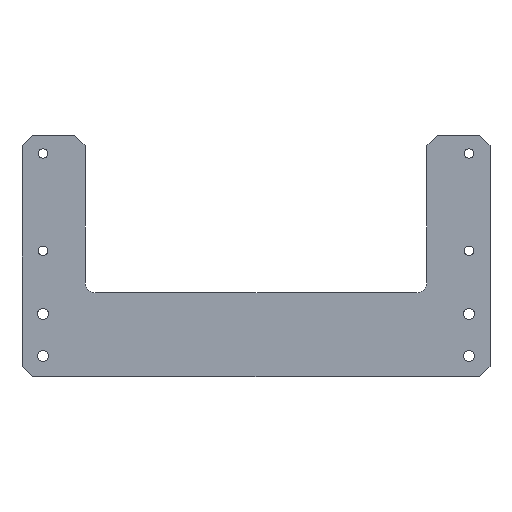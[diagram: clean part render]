
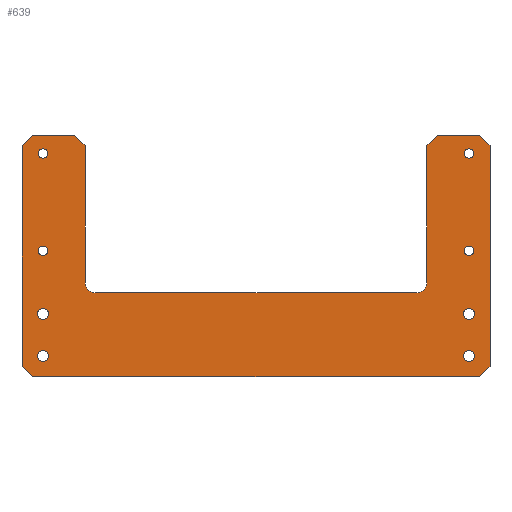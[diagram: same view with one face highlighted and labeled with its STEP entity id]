
A CAD part, top view. The second image highlights one B-rep face of the part: STEP entity #639.
In plain terms, the highlighted planar face has unit normal (0, 0, 1).
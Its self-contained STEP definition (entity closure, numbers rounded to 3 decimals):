
#57=FACE_BOUND('',#186,.T.);
#58=FACE_BOUND('',#187,.T.);
#59=FACE_BOUND('',#188,.T.);
#60=FACE_BOUND('',#189,.T.);
#61=FACE_BOUND('',#190,.T.);
#62=FACE_BOUND('',#191,.T.);
#63=FACE_BOUND('',#192,.T.);
#64=FACE_BOUND('',#193,.T.);
#133=PLANE('',#708);
#159=FACE_OUTER_BOUND('',#185,.T.);
#185=EDGE_LOOP('',(#557,#558,#559,#560,#561,#562,#563,#564,#565,#566,#567,
#568,#569,#570,#571,#572));
#186=EDGE_LOOP('',(#573));
#187=EDGE_LOOP('',(#574));
#188=EDGE_LOOP('',(#575));
#189=EDGE_LOOP('',(#576));
#190=EDGE_LOOP('',(#577));
#191=EDGE_LOOP('',(#578));
#192=EDGE_LOOP('',(#579));
#193=EDGE_LOOP('',(#580));
#205=LINE('',#922,#257);
#211=LINE('',#937,#263);
#222=LINE('',#991,#274);
#223=LINE('',#994,#275);
#226=LINE('',#1000,#278);
#229=LINE('',#1006,#281);
#232=LINE('',#1012,#284);
#235=LINE('',#1018,#287);
#238=LINE('',#1024,#290);
#241=LINE('',#1030,#293);
#244=LINE('',#1036,#296);
#247=LINE('',#1042,#299);
#250=LINE('',#1048,#302);
#253=LINE('',#1053,#305);
#257=VECTOR('',#740,10.);
#263=VECTOR('',#754,10.);
#274=VECTOR('',#815,10.);
#275=VECTOR('',#818,10.);
#278=VECTOR('',#823,10.);
#281=VECTOR('',#828,10.);
#284=VECTOR('',#833,10.);
#287=VECTOR('',#838,10.);
#290=VECTOR('',#843,10.);
#293=VECTOR('',#848,10.);
#296=VECTOR('',#853,10.);
#299=VECTOR('',#858,10.);
#302=VECTOR('',#863,10.);
#305=VECTOR('',#868,10.);
#307=CIRCLE('',#665,10.);
#309=CIRCLE('',#669,10.);
#312=CIRCLE('',#674,4.5);
#314=CIRCLE('',#677,4.5);
#316=CIRCLE('',#680,4.5);
#318=CIRCLE('',#683,4.5);
#320=CIRCLE('',#686,5.25);
#322=CIRCLE('',#689,5.25);
#324=CIRCLE('',#692,5.25);
#326=CIRCLE('',#695,5.25);
#341=VERTEX_POINT('',#912);
#342=VERTEX_POINT('',#913);
#345=VERTEX_POINT('',#921);
#347=VERTEX_POINT('',#927);
#348=VERTEX_POINT('',#928);
#352=VERTEX_POINT('',#941);
#354=VERTEX_POINT('',#947);
#356=VERTEX_POINT('',#953);
#358=VERTEX_POINT('',#959);
#360=VERTEX_POINT('',#965);
#362=VERTEX_POINT('',#971);
#364=VERTEX_POINT('',#977);
#366=VERTEX_POINT('',#983);
#368=VERTEX_POINT('',#989);
#369=VERTEX_POINT('',#993);
#371=VERTEX_POINT('',#999);
#373=VERTEX_POINT('',#1005);
#375=VERTEX_POINT('',#1011);
#377=VERTEX_POINT('',#1017);
#379=VERTEX_POINT('',#1023);
#381=VERTEX_POINT('',#1029);
#383=VERTEX_POINT('',#1035);
#385=VERTEX_POINT('',#1041);
#387=VERTEX_POINT('',#1047);
#389=EDGE_CURVE('',#341,#342,#307,.T.);
#393=EDGE_CURVE('',#345,#342,#205,.T.);
#396=EDGE_CURVE('',#347,#348,#309,.T.);
#401=EDGE_CURVE('',#341,#348,#211,.T.);
#404=EDGE_CURVE('',#352,#352,#312,.T.);
#407=EDGE_CURVE('',#354,#354,#314,.T.);
#410=EDGE_CURVE('',#356,#356,#316,.T.);
#413=EDGE_CURVE('',#358,#358,#318,.T.);
#416=EDGE_CURVE('',#360,#360,#320,.T.);
#419=EDGE_CURVE('',#362,#362,#322,.T.);
#422=EDGE_CURVE('',#364,#364,#324,.T.);
#425=EDGE_CURVE('',#366,#366,#326,.T.);
#428=EDGE_CURVE('',#347,#368,#222,.T.);
#429=EDGE_CURVE('',#368,#369,#223,.T.);
#432=EDGE_CURVE('',#369,#371,#226,.T.);
#435=EDGE_CURVE('',#371,#373,#229,.T.);
#438=EDGE_CURVE('',#373,#375,#232,.T.);
#441=EDGE_CURVE('',#375,#377,#235,.T.);
#444=EDGE_CURVE('',#377,#379,#238,.T.);
#447=EDGE_CURVE('',#379,#381,#241,.T.);
#450=EDGE_CURVE('',#381,#383,#244,.T.);
#453=EDGE_CURVE('',#383,#385,#247,.T.);
#456=EDGE_CURVE('',#385,#387,#250,.T.);
#459=EDGE_CURVE('',#387,#345,#253,.T.);
#557=ORIENTED_EDGE('',*,*,#401,.T.);
#558=ORIENTED_EDGE('',*,*,#396,.F.);
#559=ORIENTED_EDGE('',*,*,#428,.T.);
#560=ORIENTED_EDGE('',*,*,#429,.T.);
#561=ORIENTED_EDGE('',*,*,#432,.T.);
#562=ORIENTED_EDGE('',*,*,#435,.T.);
#563=ORIENTED_EDGE('',*,*,#438,.T.);
#564=ORIENTED_EDGE('',*,*,#441,.T.);
#565=ORIENTED_EDGE('',*,*,#444,.T.);
#566=ORIENTED_EDGE('',*,*,#447,.T.);
#567=ORIENTED_EDGE('',*,*,#450,.T.);
#568=ORIENTED_EDGE('',*,*,#453,.T.);
#569=ORIENTED_EDGE('',*,*,#456,.T.);
#570=ORIENTED_EDGE('',*,*,#459,.T.);
#571=ORIENTED_EDGE('',*,*,#393,.T.);
#572=ORIENTED_EDGE('',*,*,#389,.F.);
#573=ORIENTED_EDGE('',*,*,#425,.T.);
#574=ORIENTED_EDGE('',*,*,#422,.T.);
#575=ORIENTED_EDGE('',*,*,#419,.T.);
#576=ORIENTED_EDGE('',*,*,#416,.T.);
#577=ORIENTED_EDGE('',*,*,#413,.T.);
#578=ORIENTED_EDGE('',*,*,#410,.T.);
#579=ORIENTED_EDGE('',*,*,#407,.T.);
#580=ORIENTED_EDGE('',*,*,#404,.T.);
#639=ADVANCED_FACE('',(#159,#57,#58,#59,#60,#61,#62,#63,#64),#133,.T.);
#665=AXIS2_PLACEMENT_3D('',#914,#732,#733);
#669=AXIS2_PLACEMENT_3D('',#929,#745,#746);
#674=AXIS2_PLACEMENT_3D('',#943,#760,#761);
#677=AXIS2_PLACEMENT_3D('',#949,#767,#768);
#680=AXIS2_PLACEMENT_3D('',#955,#774,#775);
#683=AXIS2_PLACEMENT_3D('',#961,#781,#782);
#686=AXIS2_PLACEMENT_3D('',#967,#788,#789);
#689=AXIS2_PLACEMENT_3D('',#973,#795,#796);
#692=AXIS2_PLACEMENT_3D('',#979,#802,#803);
#695=AXIS2_PLACEMENT_3D('',#985,#809,#810);
#708=AXIS2_PLACEMENT_3D('',#1055,#870,#871);
#732=DIRECTION('center_axis',(0.,0.,1.));
#733=DIRECTION('ref_axis',(0.707,-0.707,0.));
#740=DIRECTION('',(0.,-1.,0.));
#745=DIRECTION('center_axis',(0.,0.,1.));
#746=DIRECTION('ref_axis',(-0.707,-0.707,0.));
#754=DIRECTION('',(-1.,0.,0.));
#760=DIRECTION('center_axis',(0.,0.,-1.));
#761=DIRECTION('ref_axis',(-1.,0.,0.));
#767=DIRECTION('center_axis',(0.,0.,-1.));
#768=DIRECTION('ref_axis',(-1.,0.,0.));
#774=DIRECTION('center_axis',(0.,0.,-1.));
#775=DIRECTION('ref_axis',(-1.,0.,0.));
#781=DIRECTION('center_axis',(0.,0.,-1.));
#782=DIRECTION('ref_axis',(-1.,0.,0.));
#788=DIRECTION('center_axis',(0.,0.,-1.));
#789=DIRECTION('ref_axis',(-1.,0.,0.));
#795=DIRECTION('center_axis',(0.,0.,-1.));
#796=DIRECTION('ref_axis',(-1.,0.,0.));
#802=DIRECTION('center_axis',(0.,0.,-1.));
#803=DIRECTION('ref_axis',(-1.,0.,0.));
#809=DIRECTION('center_axis',(0.,0.,-1.));
#810=DIRECTION('ref_axis',(-1.,0.,0.));
#815=DIRECTION('',(0.,1.,0.));
#818=DIRECTION('',(-0.707,0.707,0.));
#823=DIRECTION('',(-1.,0.,0.));
#828=DIRECTION('',(-0.707,-0.707,0.));
#833=DIRECTION('',(0.,-1.,0.));
#838=DIRECTION('',(0.707,-0.707,0.));
#843=DIRECTION('',(1.,0.,0.));
#848=DIRECTION('',(0.707,0.707,0.));
#853=DIRECTION('',(0.,1.,0.));
#858=DIRECTION('',(-0.707,0.707,0.));
#863=DIRECTION('',(-1.,0.,0.));
#868=DIRECTION('',(-0.707,-0.707,0.));
#870=DIRECTION('center_axis',(0.,0.,1.));
#871=DIRECTION('ref_axis',(1.,0.,0.));
#912=CARTESIAN_POINT('',(152.5,40.,0.));
#913=CARTESIAN_POINT('',(162.5,50.,0.));
#914=CARTESIAN_POINT('Origin',(152.5,50.,0.));
#921=CARTESIAN_POINT('',(162.5,180.,0.));
#922=CARTESIAN_POINT('',(162.5,180.,0.));
#927=CARTESIAN_POINT('',(-162.5,50.,0.));
#928=CARTESIAN_POINT('',(-152.5,40.,0.));
#929=CARTESIAN_POINT('Origin',(-152.5,50.,0.));
#937=CARTESIAN_POINT('',(222.5,40.,0.));
#941=CARTESIAN_POINT('',(-198.,80.,0.));
#943=CARTESIAN_POINT('Origin',(-202.5,80.,0.));
#947=CARTESIAN_POINT('',(-198.,172.5,0.));
#949=CARTESIAN_POINT('Origin',(-202.5,172.5,0.));
#953=CARTESIAN_POINT('',(207.,172.5,0.));
#955=CARTESIAN_POINT('Origin',(202.5,172.5,0.));
#959=CARTESIAN_POINT('',(207.,80.,0.));
#961=CARTESIAN_POINT('Origin',(202.5,80.,0.));
#965=CARTESIAN_POINT('',(-197.25,-20.,0.));
#967=CARTESIAN_POINT('Origin',(-202.5,-20.,0.));
#971=CARTESIAN_POINT('',(207.75,20.,0.));
#973=CARTESIAN_POINT('Origin',(202.5,20.,0.));
#977=CARTESIAN_POINT('',(207.75,-20.,0.));
#979=CARTESIAN_POINT('Origin',(202.5,-20.,0.));
#983=CARTESIAN_POINT('',(-197.25,20.,0.));
#985=CARTESIAN_POINT('Origin',(-202.5,20.,0.));
#989=CARTESIAN_POINT('',(-162.5,180.,0.));
#991=CARTESIAN_POINT('',(-162.5,40.,0.));
#993=CARTESIAN_POINT('',(-172.5,190.,0.));
#994=CARTESIAN_POINT('',(-162.5,180.,0.));
#999=CARTESIAN_POINT('',(-212.5,190.,0.));
#1000=CARTESIAN_POINT('',(-172.5,190.,0.));
#1005=CARTESIAN_POINT('',(-222.5,180.,0.));
#1006=CARTESIAN_POINT('',(-212.5,190.,0.));
#1011=CARTESIAN_POINT('',(-222.5,-30.,0.));
#1012=CARTESIAN_POINT('',(-222.5,180.,0.));
#1017=CARTESIAN_POINT('',(-212.5,-40.,0.));
#1018=CARTESIAN_POINT('',(-222.5,-30.,0.));
#1023=CARTESIAN_POINT('',(212.5,-40.,0.));
#1024=CARTESIAN_POINT('',(-212.5,-40.,0.));
#1029=CARTESIAN_POINT('',(222.5,-30.,0.));
#1030=CARTESIAN_POINT('',(212.5,-40.,0.));
#1035=CARTESIAN_POINT('',(222.5,180.,0.));
#1036=CARTESIAN_POINT('',(222.5,-30.,0.));
#1041=CARTESIAN_POINT('',(212.5,190.,0.));
#1042=CARTESIAN_POINT('',(222.5,180.,0.));
#1047=CARTESIAN_POINT('',(172.5,190.,0.));
#1048=CARTESIAN_POINT('',(212.5,190.,0.));
#1053=CARTESIAN_POINT('',(172.5,190.,0.));
#1055=CARTESIAN_POINT('Origin',(0.,0.,
0.));
